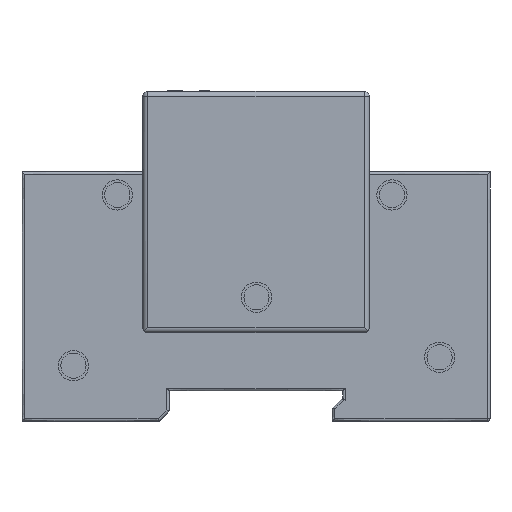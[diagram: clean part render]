
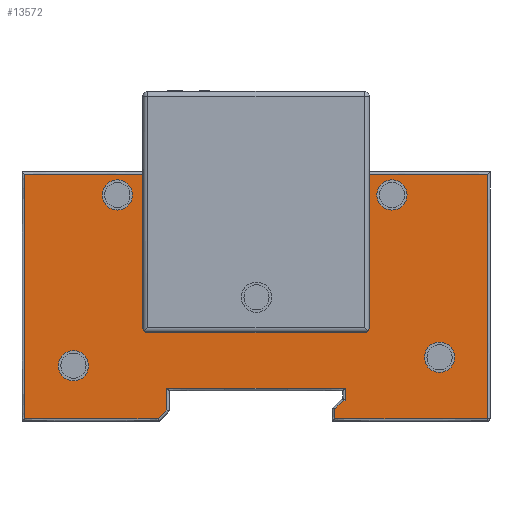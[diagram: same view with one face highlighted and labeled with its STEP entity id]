
A CAD part, left-side view. The second image highlights one B-rep face of the part: STEP entity #13572.
In plain terms, the highlighted planar face has unit normal (-1, 0, 0).
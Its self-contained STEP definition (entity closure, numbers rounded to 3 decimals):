
#440=FACE_BOUND('',#2441,.T.);
#441=FACE_BOUND('',#2442,.T.);
#442=FACE_BOUND('',#2443,.T.);
#443=FACE_BOUND('',#2444,.T.);
#1000=PLANE('',#14514);
#1548=FACE_OUTER_BOUND('',#2440,.T.);
#2440=EDGE_LOOP('',(#9698,#9699,#9700,#9701,#9702,#9703,#9704,#9705,#9706,
#9707,#9708,#9709,#9710,#9711,#9712,#9713,#9714,#9715));
#2441=EDGE_LOOP('',(#9716));
#2442=EDGE_LOOP('',(#9717));
#2443=EDGE_LOOP('',(#9718));
#2444=EDGE_LOOP('',(#9719));
#3462=LINE('',#18925,#4692);
#3466=LINE('',#18937,#4696);
#3497=LINE('',#19109,#4727);
#3524=LINE('',#19225,#4754);
#3525=LINE('',#19402,#4755);
#3526=LINE('',#19432,#4756);
#3527=LINE('',#19474,#4757);
#3528=LINE('',#19516,#4758);
#3529=LINE('',#19558,#4759);
#3530=LINE('',#19600,#4760);
#3531=LINE('',#19642,#4761);
#3532=LINE('',#19684,#4762);
#3533=LINE('',#19726,#4763);
#3534=LINE('',#19781,#4764);
#3535=LINE('',#19822,#4765);
#3536=LINE('',#19851,#4766);
#4692=VECTOR('',#15521,10.);
#4696=VECTOR('',#15533,10.);
#4727=VECTOR('',#15638,10.);
#4754=VECTOR('',#15689,10.);
#4755=VECTOR('',#15690,10.);
#4756=VECTOR('',#15691,10.);
#4757=VECTOR('',#15692,10.);
#4758=VECTOR('',#15693,10.);
#4759=VECTOR('',#15694,10.);
#4760=VECTOR('',#15695,10.);
#4761=VECTOR('',#15696,10.);
#4762=VECTOR('',#15697,10.);
#4763=VECTOR('',#15698,10.);
#4764=VECTOR('',#15699,10.);
#4765=VECTOR('',#15700,10.);
#4766=VECTOR('',#15701,10.);
#5920=CIRCLE('',#14424,1.);
#5922=CIRCLE('',#14428,1.);
#5941=CIRCLE('',#14499,3.);
#5943=CIRCLE('',#14503,3.);
#5945=CIRCLE('',#14507,3.);
#5947=CIRCLE('',#14511,3.);
#6202=VERTEX_POINT('',#18915);
#6203=VERTEX_POINT('',#18916);
#6206=VERTEX_POINT('',#18924);
#6208=VERTEX_POINT('',#18930);
#6210=VERTEX_POINT('',#18936);
#6246=VERTEX_POINT('',#19095);
#6260=VERTEX_POINT('',#19224);
#6261=VERTEX_POINT('',#19359);
#6262=VERTEX_POINT('',#19431);
#6263=VERTEX_POINT('',#19473);
#6264=VERTEX_POINT('',#19515);
#6265=VERTEX_POINT('',#19557);
#6266=VERTEX_POINT('',#19599);
#6267=VERTEX_POINT('',#19641);
#6268=VERTEX_POINT('',#19683);
#6269=VERTEX_POINT('',#19725);
#6270=VERTEX_POINT('',#19767);
#6271=VERTEX_POINT('',#19780);
#6281=VERTEX_POINT('',#19880);
#6283=VERTEX_POINT('',#19886);
#6285=VERTEX_POINT('',#19892);
#6287=VERTEX_POINT('',#19898);
#7516=EDGE_CURVE('',#6202,#6203,#5920,.T.);
#7520=EDGE_CURVE('',#6203,#6206,#3462,.T.);
#7523=EDGE_CURVE('',#6206,#6208,#5922,.T.);
#7526=EDGE_CURVE('',#6208,#6210,#3466,.T.);
#7579=EDGE_CURVE('',#6246,#6202,#3497,.T.);
#7607=EDGE_CURVE('',#6210,#6260,#3524,.T.);
#7611=EDGE_CURVE('',#6260,#6261,#3525,.T.);
#7612=EDGE_CURVE('',#6261,#6262,#3526,.T.);
#7614=EDGE_CURVE('',#6262,#6263,#3527,.T.);
#7616=EDGE_CURVE('',#6263,#6264,#3528,.T.);
#7618=EDGE_CURVE('',#6264,#6265,#3529,.T.);
#7620=EDGE_CURVE('',#6265,#6266,#3530,.T.);
#7622=EDGE_CURVE('',#6266,#6267,#3531,.T.);
#7624=EDGE_CURVE('',#6267,#6268,#3532,.T.);
#7626=EDGE_CURVE('',#6268,#6269,#3533,.T.);
#7629=EDGE_CURVE('',#6270,#6271,#3534,.T.);
#7631=EDGE_CURVE('',#6269,#6270,#3535,.T.);
#7632=EDGE_CURVE('',#6271,#6246,#3536,.T.);
#7642=EDGE_CURVE('',#6281,#6281,#5941,.T.);
#7644=EDGE_CURVE('',#6283,#6283,#5943,.T.);
#7646=EDGE_CURVE('',#6285,#6285,#5945,.T.);
#7648=EDGE_CURVE('',#6287,#6287,#5947,.T.);
#9698=ORIENTED_EDGE('',*,*,#7607,.F.);
#9699=ORIENTED_EDGE('',*,*,#7526,.F.);
#9700=ORIENTED_EDGE('',*,*,#7523,.F.);
#9701=ORIENTED_EDGE('',*,*,#7520,.F.);
#9702=ORIENTED_EDGE('',*,*,#7516,.F.);
#9703=ORIENTED_EDGE('',*,*,#7579,.F.);
#9704=ORIENTED_EDGE('',*,*,#7632,.F.);
#9705=ORIENTED_EDGE('',*,*,#7629,.F.);
#9706=ORIENTED_EDGE('',*,*,#7631,.F.);
#9707=ORIENTED_EDGE('',*,*,#7626,.F.);
#9708=ORIENTED_EDGE('',*,*,#7624,.F.);
#9709=ORIENTED_EDGE('',*,*,#7622,.F.);
#9710=ORIENTED_EDGE('',*,*,#7620,.F.);
#9711=ORIENTED_EDGE('',*,*,#7618,.F.);
#9712=ORIENTED_EDGE('',*,*,#7616,.F.);
#9713=ORIENTED_EDGE('',*,*,#7614,.F.);
#9714=ORIENTED_EDGE('',*,*,#7612,.F.);
#9715=ORIENTED_EDGE('',*,*,#7611,.F.);
#9716=ORIENTED_EDGE('',*,*,#7642,.T.);
#9717=ORIENTED_EDGE('',*,*,#7644,.T.);
#9718=ORIENTED_EDGE('',*,*,#7646,.T.);
#9719=ORIENTED_EDGE('',*,*,#7648,.T.);
#13572=ADVANCED_FACE('',(#1548,#440,#441,#442,#443),#1000,.F.);
#14424=AXIS2_PLACEMENT_3D('',#18917,#15513,#15514);
#14428=AXIS2_PLACEMENT_3D('',#18931,#15526,#15527);
#14499=AXIS2_PLACEMENT_3D('',#19881,#15740,#15741);
#14503=AXIS2_PLACEMENT_3D('',#19887,#15748,#15749);
#14507=AXIS2_PLACEMENT_3D('',#19893,#15756,#15757);
#14511=AXIS2_PLACEMENT_3D('',#19899,#15764,#15765);
#14514=AXIS2_PLACEMENT_3D('',#19902,#15770,#15771);
#15513=DIRECTION('center_axis',(-1.,0.,0.));
#15514=DIRECTION('ref_axis',(0.,0.707,-0.707));
#15521=DIRECTION('',(0.,-1.,0.));
#15526=DIRECTION('center_axis',(-1.,0.,0.));
#15527=DIRECTION('ref_axis',(0.,-0.707,-0.707));
#15533=DIRECTION('',(0.,0.,1.));
#15638=DIRECTION('',(0.,0.,-1.));
#15689=DIRECTION('',(0.,-1.,0.));
#15690=DIRECTION('',(0.,0.,-1.));
#15691=DIRECTION('',(0.,1.,0.));
#15692=DIRECTION('',(0.,0.,1.));
#15693=DIRECTION('',(0.,-0.707,0.707));
#15694=DIRECTION('',(0.,-1.,0.));
#15695=DIRECTION('',(0.,0.,1.));
#15696=DIRECTION('',(0.,1.,0.));
#15697=DIRECTION('',(0.,0.,-1.));
#15698=DIRECTION('',(0.,0.707,-0.707));
#15699=DIRECTION('',(0.,0.,1.));
#15700=DIRECTION('',(0.,1.,0.));
#15701=DIRECTION('',(0.,-1.,0.));
#15740=DIRECTION('center_axis',(1.,0.,0.));
#15741=DIRECTION('ref_axis',(0.,0.,-1.));
#15748=DIRECTION('center_axis',(1.,0.,0.));
#15749=DIRECTION('ref_axis',(0.,0.,-1.));
#15756=DIRECTION('center_axis',(1.,0.,0.));
#15757=DIRECTION('ref_axis',(0.,0.,-1.));
#15764=DIRECTION('center_axis',(1.,0.,0.));
#15765=DIRECTION('ref_axis',(0.,0.,-1.));
#15770=DIRECTION('center_axis',(1.,0.,0.));
#15771=DIRECTION('ref_axis',(0.,0.,-1.));
#18915=CARTESIAN_POINT('',(0.,26.84,-10.543));
#18916=CARTESIAN_POINT('',(0.,25.84,-11.543));
#18917=CARTESIAN_POINT('Origin',(0.,25.84,-10.543));
#18924=CARTESIAN_POINT('',(0.,-17.16,-11.543));
#18925=CARTESIAN_POINT('',(0.,26.84,-11.543));
#18930=CARTESIAN_POINT('',(0.,-18.16,-10.543));
#18931=CARTESIAN_POINT('Origin',(0.,-17.16,-10.543));
#18936=CARTESIAN_POINT('',(0.,-18.16,19.908));
#18937=CARTESIAN_POINT('',(0.,-18.16,-11.543));
#19095=CARTESIAN_POINT('',(0.,26.84,19.908));
#19109=CARTESIAN_POINT('',(0.,26.84,20.408));
#19224=CARTESIAN_POINT('',(0.,-41.66,19.908));
#19225=CARTESIAN_POINT('',(0.,-6.994,19.908));
#19359=CARTESIAN_POINT('',(0.,-41.66,-28.592));
#19402=CARTESIAN_POINT('',(0.,-41.66,6.692));
#19431=CARTESIAN_POINT('',(0.,-11.313,-28.592));
#19432=CARTESIAN_POINT('',(0.,-18.994,-28.592));
#19473=CARTESIAN_POINT('',(0.,-11.313,-26.734));
#19474=CARTESIAN_POINT('',(0.,-11.313,-18.058));
#19515=CARTESIAN_POINT('',(0.,-13.02,-25.027));
#19516=CARTESIAN_POINT('',(0.,-12.296,-25.751));
#19557=CARTESIAN_POINT('',(0.,-13.41,-25.027));
#19558=CARTESIAN_POINT('',(0.,-4.32,-25.027));
#19599=CARTESIAN_POINT('',(0.,-13.41,-22.592));
#19600=CARTESIAN_POINT('',(0.,-13.41,-15.775));
#19641=CARTESIAN_POINT('',(0.,22.09,-22.592));
#19642=CARTESIAN_POINT('',(0.,-4.369,-22.592));
#19683=CARTESIAN_POINT('',(0.,22.09,-26.885));
#19684=CARTESIAN_POINT('',(0.,22.09,-15.058));
#19725=CARTESIAN_POINT('',(0.,23.797,-28.592));
#19726=CARTESIAN_POINT('',(0.,12.572,-17.367));
#19767=CARTESIAN_POINT('',(0.,50.34,-28.592));
#19780=CARTESIAN_POINT('',(0.,50.34,19.908));
#19781=CARTESIAN_POINT('',(0.,50.34,-18.058));
#19822=CARTESIAN_POINT('',(0.,13.881,-28.592));
#19851=CARTESIAN_POINT('',(0.,27.506,19.908));
#19880=CARTESIAN_POINT('',(0.,31.888,18.843));
#19881=CARTESIAN_POINT('Origin',(0.,31.888,15.843));
#19886=CARTESIAN_POINT('',(0.,40.611,-15.099));
#19887=CARTESIAN_POINT('Origin',(0.,40.611,-18.099));
#19892=CARTESIAN_POINT('',(0.,-32.132,-13.422));
#19893=CARTESIAN_POINT('Origin',(0.,-32.132,-16.422));
#19898=CARTESIAN_POINT('',(0.,-22.67,18.843));
#19899=CARTESIAN_POINT('Origin',(0.,-22.67,15.843));
#19902=CARTESIAN_POINT('Origin',(0.,4.172,-7.024));
